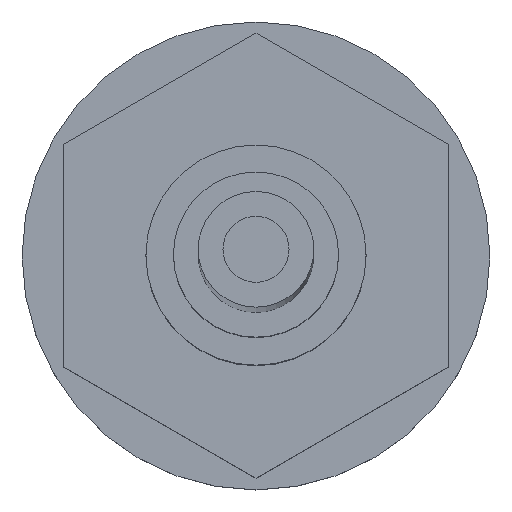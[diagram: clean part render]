
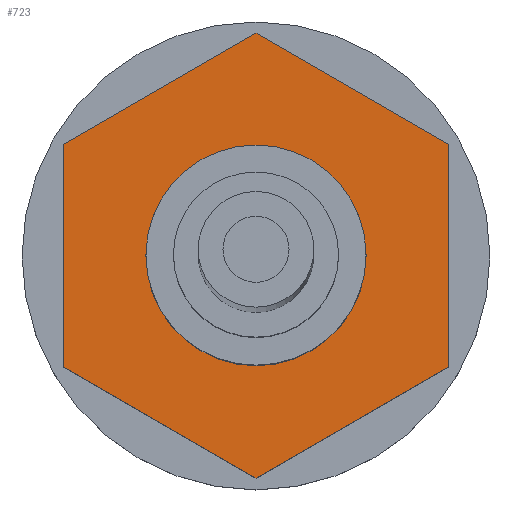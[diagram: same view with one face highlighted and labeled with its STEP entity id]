
A CAD part, top view. The second image highlights one B-rep face of the part: STEP entity #723.
In plain terms, the highlighted planar face has unit normal (0, 0, 1) as drawn and (-1, 0, 0) by its records, which use the part's own axes.
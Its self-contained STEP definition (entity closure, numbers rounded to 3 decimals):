
#340 = CARTESIAN_POINT ( 'NONE',  ( 65.6, 0., 0. ) ) ;
#391 = DIRECTION ( 'NONE',  ( 0., 1., 0. ) ) ;
#392 = VECTOR ( 'NONE', #391, 1000. ) ;
#393 = CARTESIAN_POINT ( 'NONE',  ( 65.6, -2.021, 3.5 ) ) ;
#394 = LINE ( 'NONE', #393, #392 ) ;
#402 = DIRECTION ( 'NONE',  ( 0., -1., 0. ) ) ;
#403 = DIRECTION ( 'NONE',  ( -1., 0., 0. ) ) ;
#404 = AXIS2_PLACEMENT_3D ( 'NONE', #340, #403, #402 ) ;
#405 = CIRCLE ( 'NONE', #404, 2. ) ;
#648 = EDGE_CURVE ( 'NONE', #649, #659, #1225, .T. ) ;
#649 = VERTEX_POINT ( 'NONE', #1221 ) ;
#650 = ORIENTED_EDGE ( 'NONE', *, *, #651, .T. ) ;
#651 = EDGE_CURVE ( 'NONE', #665, #666, #1220, .T. ) ;
#652 = ORIENTED_EDGE ( 'NONE', *, *, #653, .T. ) ;
#653 = EDGE_CURVE ( 'NONE', #666, #654, #1281, .T. ) ;
#654 = VERTEX_POINT ( 'NONE', #1277 ) ;
#657 = VERTEX_POINT ( 'NONE', #1276 ) ;
#658 = VERTEX_POINT ( 'NONE', #1275 ) ;
#659 = VERTEX_POINT ( 'NONE', #1274 ) ;
#660 = ORIENTED_EDGE ( 'NONE', *, *, #661, .T. ) ;
#661 = EDGE_CURVE ( 'NONE', #659, #662, #1273, .T. ) ;
#662 = VERTEX_POINT ( 'NONE', #1269 ) ;
#663 = ORIENTED_EDGE ( 'NONE', *, *, #664, .T. ) ;
#664 = EDGE_CURVE ( 'NONE', #662, #665, #1268, .T. ) ;
#665 = VERTEX_POINT ( 'NONE', #1264 ) ;
#666 = VERTEX_POINT ( 'NONE', #1263 ) ;
#669 = EDGE_CURVE ( 'NONE', #657, #658, #1262, .T. ) ;
#676 = ORIENTED_EDGE ( 'NONE', *, *, #1094, .T. ) ;
#723 = ADVANCED_FACE ( 'NONE', ( #1367, #1366 ), #1365, .T. ) ;
#724 = EDGE_LOOP ( 'NONE', ( #725, #660, #663, #650, #652, #676 ) ) ;
#725 = ORIENTED_EDGE ( 'NONE', *, *, #648, .T. ) ;
#1089 = ORIENTED_EDGE ( 'NONE', *, *, #669, .F. ) ;
#1090 = ORIENTED_EDGE ( 'NONE', *, *, #1091, .F. ) ;
#1091 = EDGE_CURVE ( 'NONE', #658, #657, #405, .T. ) ;
#1093 = EDGE_LOOP ( 'NONE', ( #1089, #1090 ) ) ;
#1094 = EDGE_CURVE ( 'NONE', #654, #649, #394, .T. ) ;
#1217 = DIRECTION ( 'NONE',  ( 0., -0.5, 0.866 ) ) ;
#1218 = VECTOR ( 'NONE', #1217, 1000. ) ;
#1219 = CARTESIAN_POINT ( 'NONE',  ( 65.6, -2.021, -3.5 ) ) ;
#1220 = LINE ( 'NONE', #1219, #1218 ) ;
#1221 = CARTESIAN_POINT ( 'NONE',  ( 65.6, 2.021, 3.5 ) ) ;
#1222 = DIRECTION ( 'NONE',  ( 0., 0.5, -0.866 ) ) ;
#1223 = VECTOR ( 'NONE', #1222, 1000. ) ;
#1224 = CARTESIAN_POINT ( 'NONE',  ( 65.6, 2.021, 3.5 ) ) ;
#1225 = LINE ( 'NONE', #1224, #1223 ) ;
#1258 = DIRECTION ( 'NONE',  ( 0., -1., 0. ) ) ;
#1259 = DIRECTION ( 'NONE',  ( -1., 0., 0. ) ) ;
#1260 = CARTESIAN_POINT ( 'NONE',  ( 65.6, 0., 0. ) ) ;
#1261 = AXIS2_PLACEMENT_3D ( 'NONE', #1260, #1259, #1258 ) ;
#1262 = CIRCLE ( 'NONE', #1261, 2. ) ;
#1263 = CARTESIAN_POINT ( 'NONE',  ( 65.6, -4.041, 0. ) ) ;
#1264 = CARTESIAN_POINT ( 'NONE',  ( 65.6, -2.021, -3.5 ) ) ;
#1265 = DIRECTION ( 'NONE',  ( 0., -1., 0. ) ) ;
#1266 = VECTOR ( 'NONE', #1265, 1000. ) ;
#1267 = CARTESIAN_POINT ( 'NONE',  ( 65.6, 2.021, -3.5 ) ) ;
#1268 = LINE ( 'NONE', #1267, #1266 ) ;
#1269 = CARTESIAN_POINT ( 'NONE',  ( 65.6, 2.021, -3.5 ) ) ;
#1270 = DIRECTION ( 'NONE',  ( 0., -0.5, -0.866 ) ) ;
#1271 = VECTOR ( 'NONE', #1270, 1000. ) ;
#1272 = CARTESIAN_POINT ( 'NONE',  ( 65.6, 4.041, 0. ) ) ;
#1273 = LINE ( 'NONE', #1272, #1271 ) ;
#1274 = CARTESIAN_POINT ( 'NONE',  ( 65.6, 4.041, 0. ) ) ;
#1275 = CARTESIAN_POINT ( 'NONE',  ( 65.6, -2., 0. ) ) ;
#1276 = CARTESIAN_POINT ( 'NONE',  ( 65.6, 2., 0. ) ) ;
#1277 = CARTESIAN_POINT ( 'NONE',  ( 65.6, -2.021, 3.5 ) ) ;
#1278 = DIRECTION ( 'NONE',  ( 0., 0.5, 0.866 ) ) ;
#1279 = VECTOR ( 'NONE', #1278, 1000. ) ;
#1280 = CARTESIAN_POINT ( 'NONE',  ( 65.6, -4.041, 0. ) ) ;
#1281 = LINE ( 'NONE', #1280, #1279 ) ;
#1361 = DIRECTION ( 'NONE',  ( 0., -1., 0. ) ) ;
#1362 = DIRECTION ( 'NONE',  ( -1., 0., 0. ) ) ;
#1363 = CARTESIAN_POINT ( 'NONE',  ( 65.6, 4.041, 0. ) ) ;
#1364 = AXIS2_PLACEMENT_3D ( 'NONE', #1363, #1362, #1361 ) ;
#1365 = PLANE ( 'NONE',  #1364 ) ;
#1366 = FACE_BOUND ( 'NONE', #1093, .T. ) ;
#1367 = FACE_OUTER_BOUND ( 'NONE', #724, .T. ) ;
